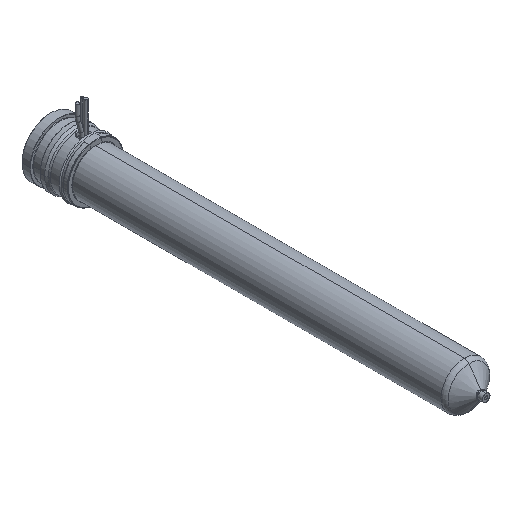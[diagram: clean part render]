
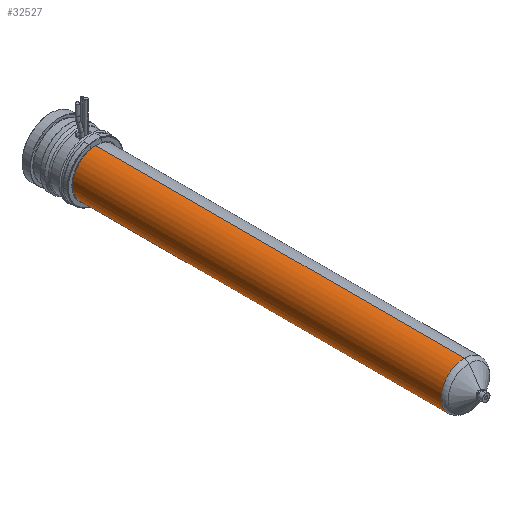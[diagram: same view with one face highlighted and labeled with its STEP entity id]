
A CAD part, isometric view. The second image highlights one B-rep face of the part: STEP entity #32527.
In plain terms, the highlighted cylindrical face has radius 12 mm (diameter 24 mm), a partial arc.
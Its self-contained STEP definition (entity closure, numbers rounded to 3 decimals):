
#32172=CARTESIAN_POINT('',(0.,-24.,0.));
#32173=DIRECTION('',(0.,1.,0.));
#32174=DIRECTION('',(0.,0.,-1.));
#32175=AXIS2_PLACEMENT_3D('',#32172,#32173,#32174);
#32180=DIRECTION('',(0.,1.,0.));
#32181=VECTOR('',#32180,190.671);
#32182=CARTESIAN_POINT('',(0.,-214.671,12.));
#32183=LINE('',#32182,#32181);
#32195=DIRECTION('',(0.,1.,0.));
#32196=VECTOR('',#32195,190.671);
#32197=CARTESIAN_POINT('',(0.,-214.671,-12.));
#32198=LINE('',#32197,#32196);
#32226=CARTESIAN_POINT('',(0.,-214.671,0.));
#32227=DIRECTION('',(0.,-1.,0.));
#32228=DIRECTION('',(0.,0.,1.));
#32229=AXIS2_PLACEMENT_3D('',#32226,#32227,#32228);
#32416=CARTESIAN_POINT('',(0.,-214.671,12.));
#32417=CARTESIAN_POINT('',(0.,-24.,12.));
#32418=VERTEX_POINT('',#32416);
#32419=VERTEX_POINT('',#32417);
#32424=CARTESIAN_POINT('',(0.,-214.671,-12.));
#32425=CARTESIAN_POINT('',(0.,-24.,-12.));
#32426=VERTEX_POINT('',#32424);
#32427=VERTEX_POINT('',#32425);
#32513=CARTESIAN_POINT('',(0.,-9.7,0.));
#32514=DIRECTION('',(0.,-1.,0.));
#32515=DIRECTION('',(0.,0.,1.));
#32516=AXIS2_PLACEMENT_3D('',#32513,#32514,#32515);
#32517=CYLINDRICAL_SURFACE('',#32516,12.);
#32519=ORIENTED_EDGE('',*,*,#32518,.F.);
#32521=ORIENTED_EDGE('',*,*,#32520,.T.);
#32523=ORIENTED_EDGE('',*,*,#32522,.T.);
#32524=ORIENTED_EDGE('',*,*,#32506,.T.);
#32525=EDGE_LOOP('',(#32519,#32521,#32523,#32524));
#32526=FACE_OUTER_BOUND('',#32525,.F.);
#32527=ADVANCED_FACE('',(#32526),#32517,.T.);
#32176=CIRCLE('',#32175,12.);
#32230=CIRCLE('',#32229,12.);
#32506=EDGE_CURVE('',#32427,#32419,#32176,.T.);
#32518=EDGE_CURVE('',#32418,#32419,#32183,.T.);
#32520=EDGE_CURVE('',#32418,#32426,#32230,.T.);
#32522=EDGE_CURVE('',#32426,#32427,#32198,.T.);
